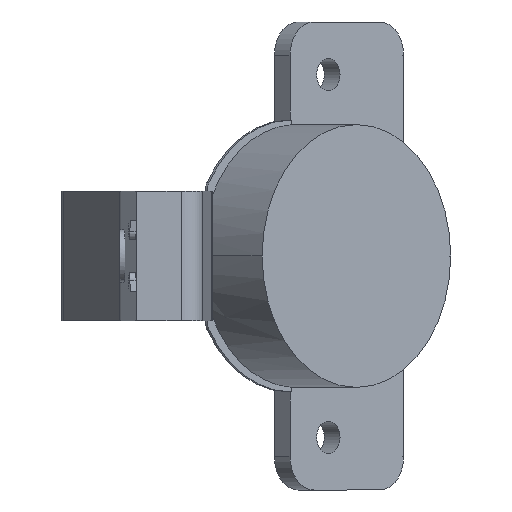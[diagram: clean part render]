
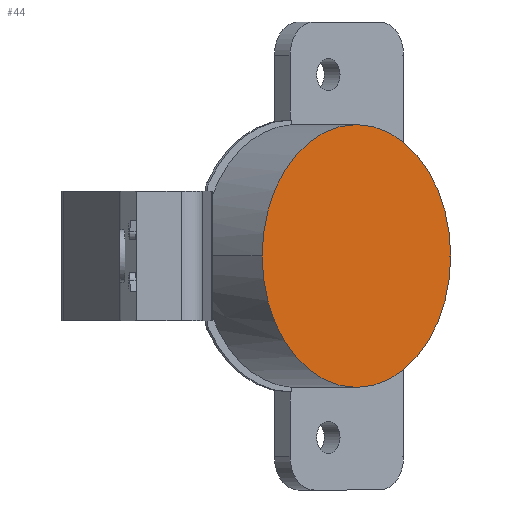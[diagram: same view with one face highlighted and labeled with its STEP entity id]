
A CAD part, left-side view. The second image highlights one B-rep face of the part: STEP entity #44.
In plain terms, the highlighted planar face has unit normal (-0.718, -0.696, 0).
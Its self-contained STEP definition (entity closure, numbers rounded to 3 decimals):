
#44 = ADVANCED_FACE ( 'NONE', ( #3480 ), #2657, .T. ) ;
#67 = EDGE_CURVE ( 'NONE', #880, #2207, #2095, .T. ) ;
#130 = DIRECTION ( 'NONE',  ( -0.718, -0.696, 0. ) ) ;
#194 = CARTESIAN_POINT ( 'NONE',  ( 20.498, -31.57, 0. ) ) ;
#389 = CARTESIAN_POINT ( 'NONE',  ( 8.381, -19.083, 0. ) ) ;
#466 = CIRCLE ( 'NONE', #2560, 17.4 ) ;
#652 = DIRECTION ( 'NONE',  ( 0.696, -0.718, 0. ) ) ;
#679 = CARTESIAN_POINT ( 'NONE',  ( -3.737, -6.597, 0. ) ) ;
#880 = VERTEX_POINT ( 'NONE', #194 ) ;
#1289 = CARTESIAN_POINT ( 'NONE',  ( 8.381, -19.083, 0. ) ) ;
#1537 = CARTESIAN_POINT ( 'NONE',  ( 8.381, -19.083, 0. ) ) ;
#1580 = EDGE_LOOP ( 'NONE', ( #3493, #1967 ) ) ;
#1967 = ORIENTED_EDGE ( 'NONE', *, *, #2169, .T. ) ;
#2063 = DIRECTION ( 'NONE',  ( 0.696, -0.718, 0. ) ) ;
#2095 = CIRCLE ( 'NONE', #2708, 17.4 ) ;
#2169 = EDGE_CURVE ( 'NONE', #2207, #880, #466, .T. ) ;
#2207 = VERTEX_POINT ( 'NONE', #679 ) ;
#2444 = DIRECTION ( 'NONE',  ( -0.718, -0.696, 0. ) ) ;
#2560 = AXIS2_PLACEMENT_3D ( 'NONE', #1289, #2444, #2989 ) ;
#2657 = PLANE ( 'NONE',  #3610 ) ;
#2708 = AXIS2_PLACEMENT_3D ( 'NONE', #389, #130, #2063 ) ;
#2989 = DIRECTION ( 'NONE',  ( 0.696, -0.718, 0. ) ) ;
#3193 = DIRECTION ( 'NONE',  ( -0.718, -0.696, 0. ) ) ;
#3480 = FACE_OUTER_BOUND ( 'NONE', #1580, .T. ) ;
#3493 = ORIENTED_EDGE ( 'NONE', *, *, #67, .T. ) ;
#3610 = AXIS2_PLACEMENT_3D ( 'NONE', #1537, #3193, #652 ) ;
